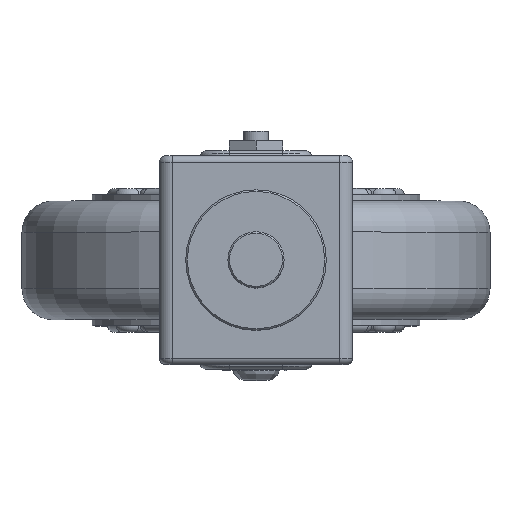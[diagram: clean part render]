
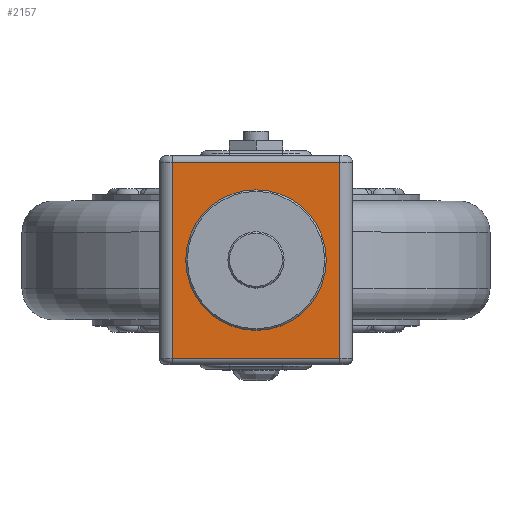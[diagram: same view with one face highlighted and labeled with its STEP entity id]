
A CAD part, top view. The second image highlights one B-rep face of the part: STEP entity #2157.
In plain terms, the highlighted planar face has unit normal (0, 0, 1).
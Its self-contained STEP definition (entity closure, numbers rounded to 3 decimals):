
#711=PLANE('',#8774);
#1264=LINE('',#13123,#1735);
#1265=LINE('',#13126,#1736);
#1266=LINE('',#13128,#1737);
#1267=LINE('',#13130,#1738);
#1735=VECTOR('',#9996,1.);
#1736=VECTOR('',#9997,1.);
#1737=VECTOR('',#9998,1.);
#1738=VECTOR('',#9999,1.);
#2157=ADVANCED_FACE('',(#2827,#2828),#711,.T.);
#2827=FACE_BOUND('',#2948,.T.);
#2828=FACE_BOUND('',#2949,.T.);
#2948=EDGE_LOOP('',(#3767));
#2949=EDGE_LOOP('',(#3768,#3769,#3770,#3771));
#3767=ORIENTED_EDGE('',*,*,#7036,.T.);
#3768=ORIENTED_EDGE('',*,*,#7123,.F.);
#3769=ORIENTED_EDGE('',*,*,#7124,.T.);
#3770=ORIENTED_EDGE('',*,*,#7125,.T.);
#3771=ORIENTED_EDGE('',*,*,#7126,.T.);
#6221=VERTEX_POINT('',#12936);
#6292=VERTEX_POINT('',#13124);
#6293=VERTEX_POINT('',#13125);
#6294=VERTEX_POINT('',#13127);
#6295=VERTEX_POINT('',#13129);
#7036=EDGE_CURVE('',#6221,#6221,#8194,.T.);
#7123=EDGE_CURVE('',#6292,#6293,#1264,.T.);
#7124=EDGE_CURVE('',#6292,#6294,#1265,.T.);
#7125=EDGE_CURVE('',#6294,#6295,#1266,.T.);
#7126=EDGE_CURVE('',#6295,#6293,#1267,.T.);
#8194=CIRCLE('',#8731,22.5);
#8731=AXIS2_PLACEMENT_3D('',#12935,#9852,#9853);
#8774=AXIS2_PLACEMENT_3D('',#13131,#10000,#10001);
#9852=DIRECTION('',(0.,0.,-1.));
#9853=DIRECTION('',(0.,-1.,0.));
#9996=DIRECTION('',(0.,1.,0.));
#9997=DIRECTION('',(1.,0.,0.));
#9998=DIRECTION('',(0.,1.,0.));
#9999=DIRECTION('',(-1.,0.,0.));
#10000=DIRECTION('',(0.,0.,1.));
#10001=DIRECTION('',(0.,1.,0.));
#12935=CARTESIAN_POINT('',(0.,0.,-72.5));
#12936=CARTESIAN_POINT('',(0.,-22.5,-72.5));
#13123=CARTESIAN_POINT('',(-26.865,-33.418,-72.5));
#13124=CARTESIAN_POINT('',(-26.865,-31.418,-72.5));
#13125=CARTESIAN_POINT('',(-26.865,31.418,-72.5));
#13126=CARTESIAN_POINT('',(-3598.215,-31.418,-72.5));
#13127=CARTESIAN_POINT('',(26.865,-31.418,-72.5));
#13128=CARTESIAN_POINT('',(26.865,-33.418,-72.5));
#13129=CARTESIAN_POINT('',(26.865,31.418,-72.5));
#13130=CARTESIAN_POINT('',(-26.865,31.418,-72.5));
#13131=CARTESIAN_POINT('',(-3598.215,-32.418,-72.5));
